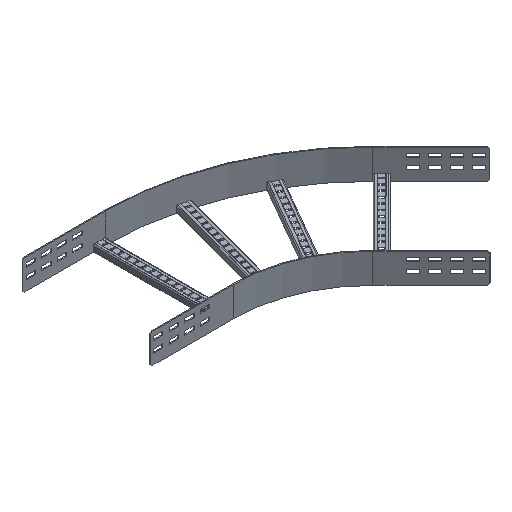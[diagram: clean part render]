
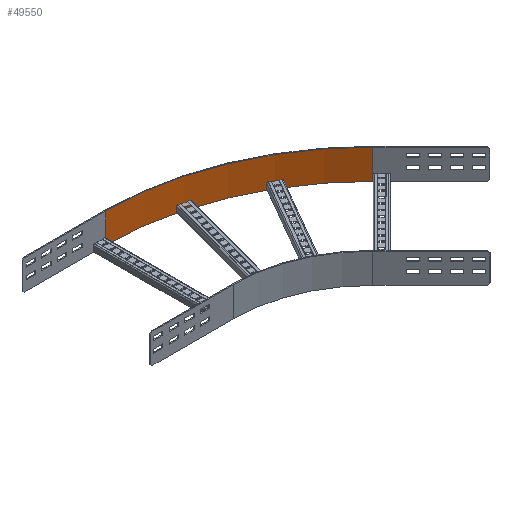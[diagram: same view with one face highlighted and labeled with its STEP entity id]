
A CAD part, isometric view. The second image highlights one B-rep face of the part: STEP entity #49550.
In plain terms, the highlighted cylindrical face has radius 855 mm (diameter 1710 mm), a partial arc.
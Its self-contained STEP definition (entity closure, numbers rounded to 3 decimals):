
#42380=CARTESIAN_POINT('',(0.,401.,-50.))
;
#42390=VERTEX_POINT('',#42380);
#42420=CARTESIAN_POINT('',(0.,401.,-50.))
;
#42430=DIRECTION('',(0.,0.,1.));
#42440=VECTOR('',#42430,1.);
#42450=LINE('',#42420,#42440);
#42460=CARTESIAN_POINT('',(0.,401.,-145.));
#42470=VERTEX_POINT('',#42460);
#42480=EDGE_CURVE('',#42470,#42390,#42450,.T.);
#47430=CARTESIAN_POINT('',(0.,-454.,-145.));
#47440=DIRECTION('',(0.,0.,1.));
#47450=DIRECTION('',(-0.707,-0.707,0.));
#47460=AXIS2_PLACEMENT_3D('',#47430,#47440,#47450);
#47470=CIRCLE('',#47460,855.);
#47480=CARTESIAN_POINT('',(604.576,150.576,-145.));
#47490=VERTEX_POINT('',#47480);
#47500=EDGE_CURVE('',#47490,#42470,#47470,.T.);
#49130=CARTESIAN_POINT('',(604.576,150.576,
-50.));
#49140=VERTEX_POINT('',#49130);
#49170=CARTESIAN_POINT('',(0.,-454.,-50.)
);
#49180=DIRECTION('',(0.,0.,1.));
#49190=DIRECTION('',(-0.707,-0.707,0.));
#49200=AXIS2_PLACEMENT_3D('',#49170,#49180,#49190);
#49210=CIRCLE('',#49200,855.);
#49220=EDGE_CURVE('',#49140,#42390,#49210,.T.);
#49390=CARTESIAN_POINT('',(0.,-454.,-50.)
);
#49400=DIRECTION('',(0.,0.,1.));
#49410=DIRECTION('',(-0.707,-0.707,0.));
#49420=AXIS2_PLACEMENT_3D('',#49390,#49400,#49410);
#49430=CYLINDRICAL_SURFACE('',#49420,855.);
#49440=CARTESIAN_POINT('',(604.576,150.576,0.));
#49450=DIRECTION('',(0.,0.,-1.));
#49460=VECTOR('',#49450,1.);
#49470=LINE('',#49440,#49460);
#49480=EDGE_CURVE('',#49140,#47490,#49470,.T.);
#49490=ORIENTED_EDGE('',*,*,#49480,.F.);
#49500=ORIENTED_EDGE('',*,*,#47500,.F.);
#49510=ORIENTED_EDGE('',*,*,#42480,.F.);
#49520=ORIENTED_EDGE('',*,*,#49220,.T.);
#49530=EDGE_LOOP('',(#49520,#49510,#49500,#49490));
#49540=FACE_OUTER_BOUND('',#49530,.T.);
#49550=ADVANCED_FACE('',(#49540),#49430,.F.);
